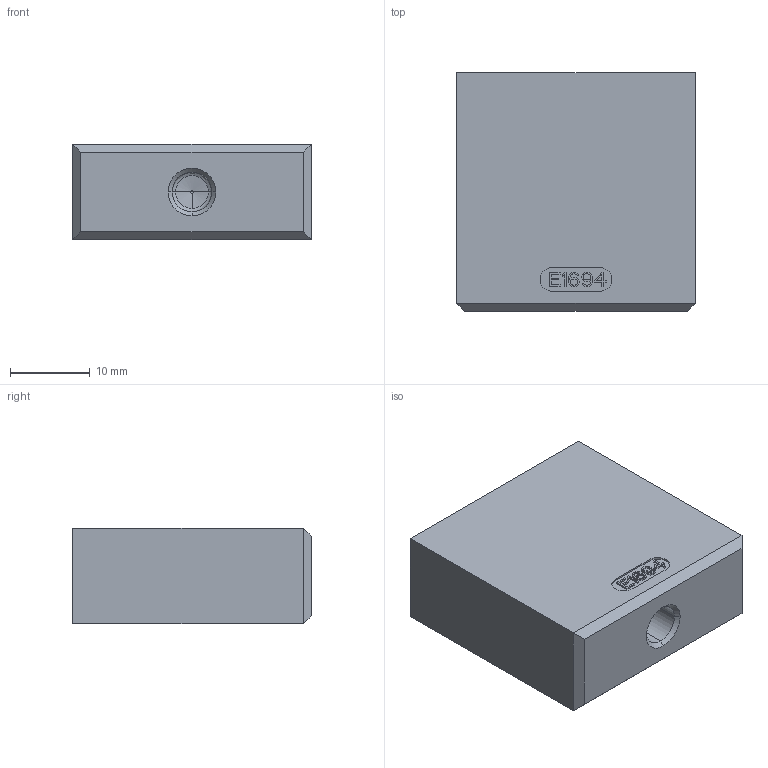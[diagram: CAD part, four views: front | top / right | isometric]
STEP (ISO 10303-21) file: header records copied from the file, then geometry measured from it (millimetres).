
FILE_DESCRIPTION (( 'STEP AP214' ), '1' );
FILE_NAME ('E 1694_30.STEP', '2018-06-21T06:31:43', ( '' ), ( '' ), 'SwSTEP 2.0', 'SolidWorks 2017', '' );
FILE_SCHEMA (( 'AUTOMOTIVE_DESIGN' ));
Length unit declared in the file: millimetre
Products named in the file (1): E 1694_30
Bounding box: 30 x 30 x 12 mm (x, y, z)
Volume: 9549.8 mm3; surface area: 4167.1 mm2
Topology: 3 solids, 3 shells, 263 faces, 710 edges, 457 vertices
Faces by surface type: plane 195, bspline 48, cylinder 14, cone 6
Entity records: 11732 total; most frequent: CARTESIAN_POINT 5457, ORIENTED_EDGE 1400, DIRECTION 1082, EDGE_CURVE 700, VECTOR 556, LINE 556, VERTEX_POINT 457, EDGE_LOOP 277
